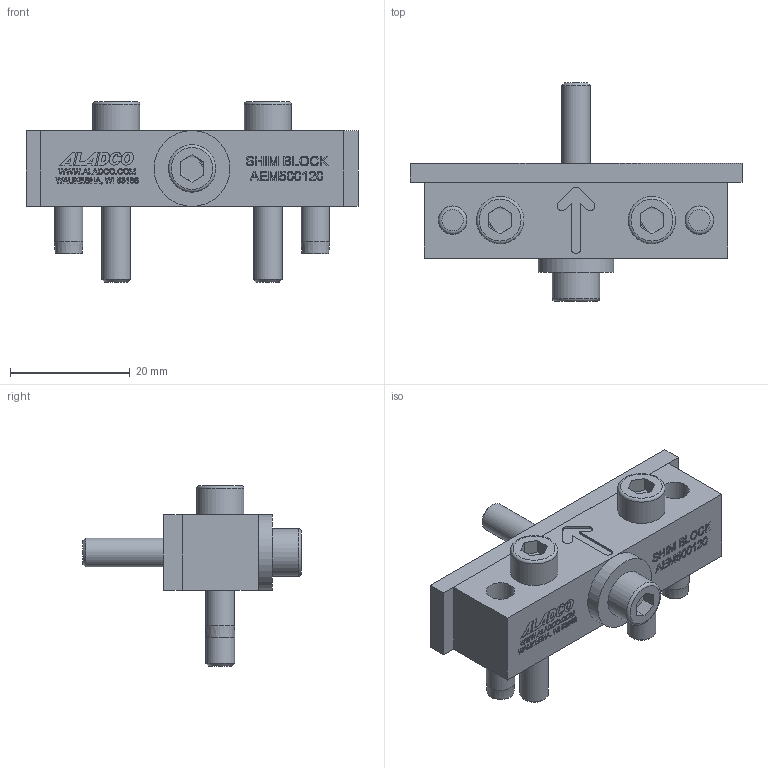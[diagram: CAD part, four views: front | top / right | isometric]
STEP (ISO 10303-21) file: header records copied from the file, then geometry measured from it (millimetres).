
FILE_DESCRIPTION(/* description */ (''),/* implementation_level */ '2;1');
FILE_NAME(/* name */ 'AEM500120.stp',/* time_stamp */ '2025-05-05T13:29:21-05:00',/* author */ ('adellomodarme'),/* organization */ (''),/* preprocessor_version */ 'ST-DEVELOPER v20',/* originating_system */ 'Autodesk Inventor 2025',/* authorisation */ '');
FILE_SCHEMA (('AUTOMOTIVE_DESIGN { 1 0 10303 214 3 1 1 }'));
Length unit declared in the file: inch
Products named in the file (10): AEM500120; AEM500121; AEM500122; AEM500123; ANSI B18.8.2 - 3/16 x 5/8, PHGMD; AEM500124; ANSI B18.3 - 10-32 UNF - 1 HS HCS; AEM500125; ANSI B18.3 - 10-32 UNF - 1.25 HS HCS; AEM500126
Assembly tree (11 placements, depth 3):
  AEM500120
    AEM500121
    AEM500122
    AEM500123  x2
      ANSI B18.8.2 - 3/16 x 5/8, PHGMD
    AEM500124  x2
      ANSI B18.3 - 10-32 UNF - 1 HS HCS
    AEM500125
      ANSI B18.3 - 10-32 UNF - 1.25 HS HCS
    AEM500126
Bounding box: 55.56 x 36.58 x 30.23 mm (x, y, z)
Volume: 11489.8 mm3; surface area: 8459.1 mm2
Topology: 8 solids, 8 shells, 977 faces, 2647 edges, 1764 vertices
Faces by surface type: plane 689, bspline 252, cylinder 20, torus 8, cone 8
Full cylindrical faces by diameter (mm): 4.762 x2, 4.768 x2, 4.826 x3, 5.159 x1, 5.556 x2, 7.925 x3, 7.938 x1, 12.7 x1
Entity records: 32269 total; most frequent: CARTESIAN_POINT 9343, ORIENTED_EDGE 5202, DIRECTION 3589, EDGE_CURVE 2601, LINE 2029, VECTOR 2029, VERTEX_POINT 1735, EDGE_LOOP 1048
